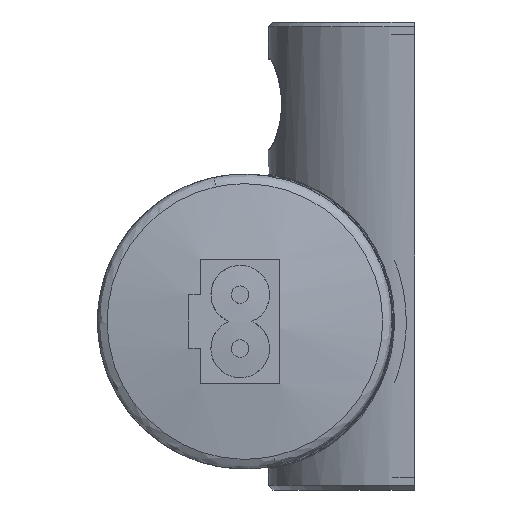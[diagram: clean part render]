
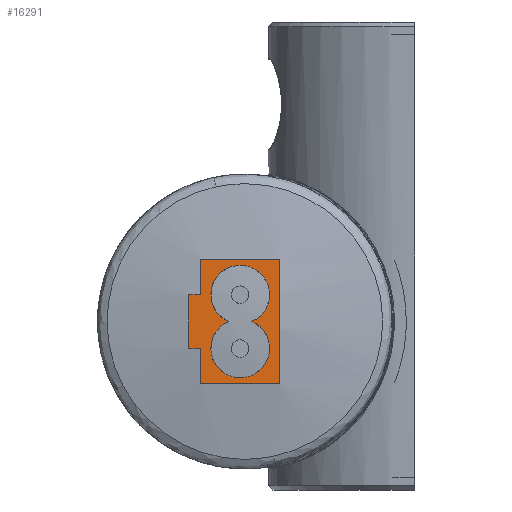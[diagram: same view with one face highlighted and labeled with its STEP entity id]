
A CAD part, left-side view. The second image highlights one B-rep face of the part: STEP entity #16291.
In plain terms, the highlighted planar face has unit normal (-1, 0, 0).
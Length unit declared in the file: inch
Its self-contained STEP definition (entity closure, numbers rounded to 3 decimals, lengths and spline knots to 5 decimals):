
#1153 = CARTESIAN_POINT ( 'NONE',  ( -6.5, -0.59992, -0.265 ) ) ;
#1154 = DIRECTION ( 'NONE',  ( 0., -1., 0. ) ) ;
#1158 = CARTESIAN_POINT ( 'NONE',  ( -6.5, -0.61, -0.115 ) ) ;
#1160 = CARTESIAN_POINT ( 'NONE',  ( -6.5, -0.61, 0.115 ) ) ;
#1161 = DIRECTION ( 'NONE',  ( 1., 0., 0. ) ) ;
#1162 = DIRECTION ( 'NONE',  ( 0., 0., -1. ) ) ;
#1166 = CARTESIAN_POINT ( 'NONE',  ( -6.5, -0.78, -0.51103 ) ) ;
#1167 = DIRECTION ( 'NONE',  ( 0., 0., -1. ) ) ;
#1170 = CARTESIAN_POINT ( 'NONE',  ( -6.5, -0.59992, 0.265 ) ) ;
#1171 = DIRECTION ( 'NONE',  ( 0., -1., 0. ) ) ;
#1172 = CARTESIAN_POINT ( 'NONE',  ( -6.5, -0.59992, 0.115 ) ) ;
#1173 = DIRECTION ( 'NONE',  ( 1., 0., 0. ) ) ;
#1174 = DIRECTION ( 'NONE',  ( 0., 0., -1. ) ) ;
#1179 = CARTESIAN_POINT ( 'NONE',  ( -6.5, -0.44, -0.51103 ) ) ;
#1180 = DIRECTION ( 'NONE',  ( 0., 0., -1. ) ) ;
#1183 = CARTESIAN_POINT ( 'NONE',  ( -6.5, -0.59992, -0.115 ) ) ;
#1184 = DIRECTION ( 'NONE',  ( 0., 1., 0. ) ) ;
#1187 = DIRECTION ( 'NONE',  ( 0., 1., 0. ) ) ;
#1188 = CARTESIAN_POINT ( 'NONE',  ( -6.5, -0.39, -0.51103 ) ) ;
#1189 = DIRECTION ( 'NONE',  ( 0., 0., -1. ) ) ;
#1197 = CARTESIAN_POINT ( 'NONE',  ( -6.5, -0.44, -0.51103 ) ) ;
#1198 = DIRECTION ( 'NONE',  ( 0., 0., -1. ) ) ;
#1309 = CARTESIAN_POINT ( 'NONE',  ( -6.5, -0.59992, -0.51103 ) ) ;
#1310 = PLANE ( 'NONE',  #12680 ) ;
#1312 = DIRECTION ( 'NONE',  ( 1., 0., 0. ) ) ;
#1313 = DIRECTION ( 'NONE',  ( 0., 0., -1. ) ) ;
#1677 = VERTEX_POINT ( 'NONE', #11673 ) ;
#1757 = VERTEX_POINT ( 'NONE', #11593 ) ;
#3917 = CARTESIAN_POINT ( 'NONE',  ( -6.5, -0.61, 0.115 ) ) ;
#3918 = DIRECTION ( 'NONE',  ( 1., 0., 0. ) ) ;
#3919 = DIRECTION ( 'NONE',  ( 0., 0., -1. ) ) ;
#6251 = EDGE_LOOP ( 'NONE', ( #11180, #11181, #11182, #11183, #11184, #11185, #11186, #6313 ) ) ;
#6254 = EDGE_LOOP ( 'NONE', ( #11177, #11178, #11179 ) ) ;
#6313 = ORIENTED_EDGE ( 'NONE', *, *, #16260, .F. ) ;
#7192 = VERTEX_POINT ( 'NONE', #10471 ) ;
#7204 = VERTEX_POINT ( 'NONE', #10443 ) ;
#7210 = VERTEX_POINT ( 'NONE', #10432 ) ;
#7216 = VERTEX_POINT ( 'NONE', #10422 ) ;
#7217 = VERTEX_POINT ( 'NONE', #10420 ) ;
#7237 = VERTEX_POINT ( 'NONE', #10385 ) ;
#7242 = VERTEX_POINT ( 'NONE', #10377 ) ;
#7243 = VERTEX_POINT ( 'NONE', #10376 ) ;
#7257 = VERTEX_POINT ( 'NONE', #10351 ) ;
#9801 = FACE_BOUND ( 'NONE', #6254, .T. ) ;
#9809 = FACE_OUTER_BOUND ( 'NONE', #6251, .T. ) ;
#9889 = LINE ( 'NONE', #1153, #9890 ) ;
#9890 = VECTOR ( 'NONE', #1154, 39.37008 ) ;
#9893 = LINE ( 'NONE', #1166, #9894 ) ;
#9894 = VECTOR ( 'NONE', #1167, 39.37008 ) ;
#9895 = CIRCLE ( 'NONE', #12652, 0.125 ) ;
#9899 = LINE ( 'NONE', #1170, #9900 ) ;
#9900 = VECTOR ( 'NONE', #1171, 39.37008 ) ;
#9901 = LINE ( 'NONE', #1183, #9914 ) ;
#9903 = CIRCLE ( 'NONE', #12658, 0.125 ) ;
#9904 = LINE ( 'NONE', #1172, #9910 ) ;
#9906 = LINE ( 'NONE', #1179, #9907 ) ;
#9907 = VECTOR ( 'NONE', #1180, 39.37008 ) ;
#9910 = VECTOR ( 'NONE', #1184, 39.37008 ) ;
#9911 = VECTOR ( 'NONE', #1198, 39.37008 ) ;
#9914 = VECTOR ( 'NONE', #1187, 39.37008 ) ;
#9915 = LINE ( 'NONE', #1197, #9911 ) ;
#9916 = LINE ( 'NONE', #1188, #9917 ) ;
#9917 = VECTOR ( 'NONE', #1189, 39.37008 ) ;
#10351 = CARTESIAN_POINT ( 'NONE',  ( -6.5, -0.39, 0.115 ) ) ;
#10376 = CARTESIAN_POINT ( 'NONE',  ( -6.5, -0.44, -0.115 ) ) ;
#10377 = CARTESIAN_POINT ( 'NONE',  ( -6.5, -0.39, -0.115 ) ) ;
#10385 = CARTESIAN_POINT ( 'NONE',  ( -6.5, -0.44, 0.265 ) ) ;
#10420 = CARTESIAN_POINT ( 'NONE',  ( -6.5, -0.78, 0.265 ) ) ;
#10422 = CARTESIAN_POINT ( 'NONE',  ( -6.5, -0.44, -0.265 ) ) ;
#10432 = CARTESIAN_POINT ( 'NONE',  ( -6.5, -0.44, 0.115 ) ) ;
#10443 = CARTESIAN_POINT ( 'NONE',  ( -6.5, -0.56101, 0. ) ) ;
#10471 = CARTESIAN_POINT ( 'NONE',  ( -6.5, -0.78, -0.265 ) ) ;
#10566 = CIRCLE ( 'NONE', #10618, 0.125 ) ;
#10618 = AXIS2_PLACEMENT_3D ( 'NONE', #3917, #3918, #3919 ) ;
#11177 = ORIENTED_EDGE ( 'NONE', *, *, #16248, .T. ) ;
#11178 = ORIENTED_EDGE ( 'NONE', *, *, #16253, .T. ) ;
#11179 = ORIENTED_EDGE ( 'NONE', *, *, #14435, .T. ) ;
#11180 = ORIENTED_EDGE ( 'NONE', *, *, #16264, .T. ) ;
#11181 = ORIENTED_EDGE ( 'NONE', *, *, #16245, .T. ) ;
#11182 = ORIENTED_EDGE ( 'NONE', *, *, #16250, .F. ) ;
#11183 = ORIENTED_EDGE ( 'NONE', *, *, #16252, .F. ) ;
#11184 = ORIENTED_EDGE ( 'NONE', *, *, #16256, .T. ) ;
#11185 = ORIENTED_EDGE ( 'NONE', *, *, #16258, .T. ) ;
#11186 = ORIENTED_EDGE ( 'NONE', *, *, #16261, .T. ) ;
#11593 = CARTESIAN_POINT ( 'NONE',  ( -6.5, -0.61, 0.24 ) ) ;
#11673 = CARTESIAN_POINT ( 'NONE',  ( -6.5, -0.65899, 0. ) ) ;
#12652 = AXIS2_PLACEMENT_3D ( 'NONE', #1158, #1161, #1162 ) ;
#12658 = AXIS2_PLACEMENT_3D ( 'NONE', #1160, #1173, #1174 ) ;
#12680 = AXIS2_PLACEMENT_3D ( 'NONE', #1309, #1312, #1313 ) ;
#14435 = EDGE_CURVE ( 'NONE', #1757, #1677, #10566, .T. ) ;
#16245 = EDGE_CURVE ( 'NONE', #7216, #7192, #9889, .T. ) ;
#16248 = EDGE_CURVE ( 'NONE', #1677, #7204, #9895, .T. ) ;
#16250 = EDGE_CURVE ( 'NONE', #7217, #7192, #9893, .T. ) ;
#16252 = EDGE_CURVE ( 'NONE', #7237, #7217, #9899, .T. ) ;
#16253 = EDGE_CURVE ( 'NONE', #7204, #1757, #9903, .T. ) ;
#16256 = EDGE_CURVE ( 'NONE', #7237, #7210, #9906, .T. ) ;
#16258 = EDGE_CURVE ( 'NONE', #7210, #7257, #9904, .T. ) ;
#16260 = EDGE_CURVE ( 'NONE', #7243, #7242, #9901, .T. ) ;
#16261 = EDGE_CURVE ( 'NONE', #7257, #7242, #9916, .T. ) ;
#16264 = EDGE_CURVE ( 'NONE', #7243, #7216, #9915, .T. ) ;
#16291 = ADVANCED_FACE ( 'NONE', ( #9801, #9809 ), #1310, .F. ) ;
